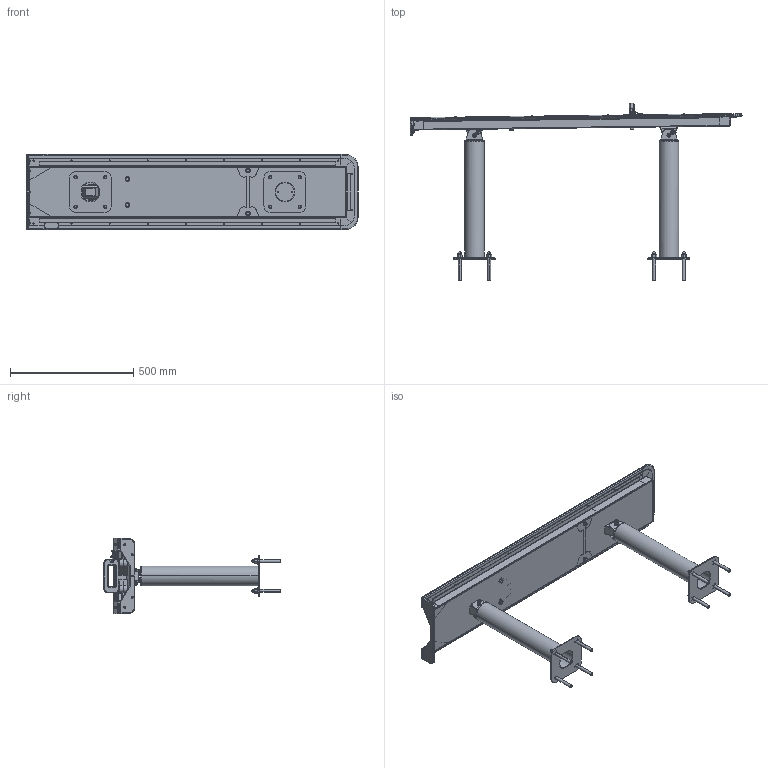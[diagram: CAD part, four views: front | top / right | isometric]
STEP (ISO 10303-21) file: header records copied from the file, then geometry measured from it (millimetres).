
FILE_DESCRIPTION (( 'STEP AP214' ), '1' );
FILE_NAME ('570.203.010.011 - Channel FA.STEP', '2021-03-25T11:13:28', ( '' ), ( '' ), 'SwSTEP 2.0', 'SolidWorks 2018', '' );
FILE_SCHEMA (( 'AUTOMOTIVE_DESIGN' ));
Length unit declared in the file: millimetre
Products named in the file (1): 570.203.010.011 - Channel FA
Bounding box: 1348.24 x 719.89 x 305 mm (x, y, z)
Surface area: 2094847.8 mm2 (no closed solid volume)
Topology: 0 solids, 184 shells, 1212 faces, 3922 edges, 2708 vertices
Faces by surface type: cylinder 423, plane 384, torus 132, bspline 115, cone 96, sphere 62
Entity records: 59006 total; most frequent: CARTESIAN_POINT 12608, DIRECTION 7371, ORIENTED_EDGE 5742, EDGE_CURVE 3858, AXIS2_PLACEMENT_3D 2928, VERTEX_POINT 2697, CIRCLE 1830, VECTOR 1515
